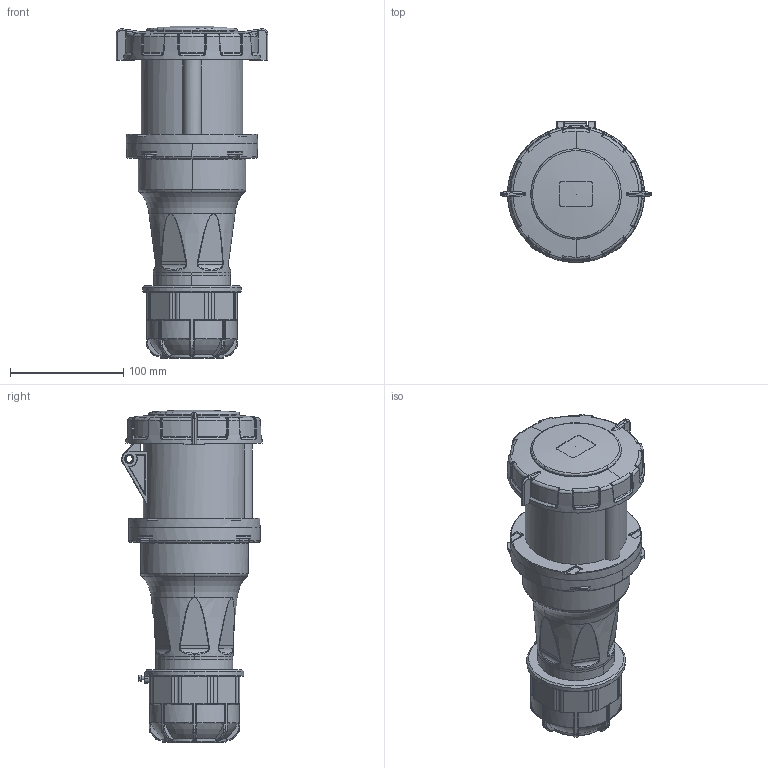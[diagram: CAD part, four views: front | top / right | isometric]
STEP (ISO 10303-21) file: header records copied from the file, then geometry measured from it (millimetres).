
FILE_DESCRIPTION(('FreeCAD Model'),'2;1');
FILE_NAME('Open CASCADE Shape Model','2026-02-04T08:55:15',(''),(''), 'Open CASCADE STEP processor 7.8','FreeCAD','Unknown');
FILE_SCHEMA(('AUTOMOTIVE_DESIGN { 1 0 10303 214 1 1 1 1 }'));
Length unit declared in the file: millimetre
Products named in the file (7): TL3T125643; Corpo tomada; Corpo acoplamento; Tampa parte 2; Prensa cabo; Parafuso para prensa cabo; Tampa parte 1
Assembly tree (6 placements, depth 2):
  TL3T125643
    Corpo tomada
    Corpo acoplamento
    Tampa parte 2
    Prensa cabo
    Parafuso para prensa cabo
    Tampa parte 1
Bounding box: 134 x 124.4 x 293.11 mm (x, y, z)
Volume: 1118198.7 mm3; surface area: 252849.1 mm2
Topology: 6 solids, 7 shells, 1485 faces, 3742 edges, 2289 vertices
Faces by surface type: cylinder 452, plane 427, bspline 281, torus 240, cone 61, sphere 24
Full cylindrical faces by diameter (mm): 3.5 x1, 5.3 x1, 6.6 x1, 12.5 x1, 23 x1, 78.4 x1, 79.3 x1, 80 x1, 94.5 x1, 111 x1
Entity records: 60444 total; most frequent: CARTESIAN_POINT 26327, ORIENTED_EDGE 7480, DIRECTION 6900, EDGE_CURVE 3740, AXIS2_PLACEMENT_3D 2819, VERTEX_POINT 2289, CIRCLE 1554, FACE_BOUND 1515
